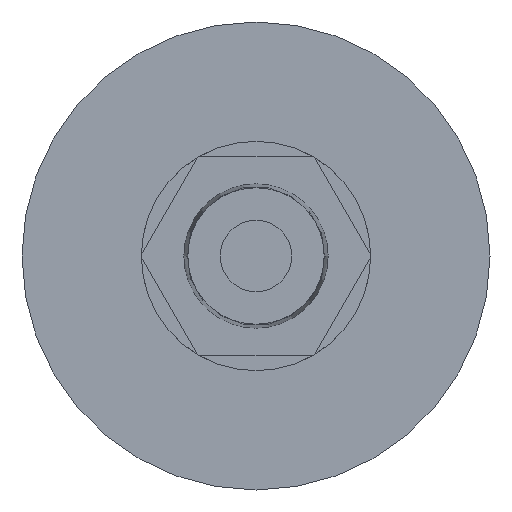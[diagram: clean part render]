
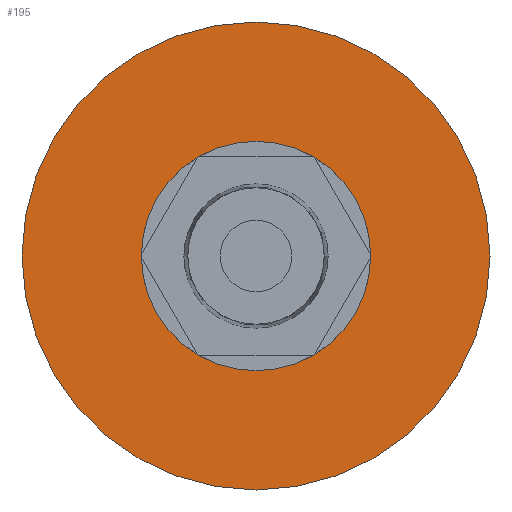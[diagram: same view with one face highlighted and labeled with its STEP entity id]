
A CAD part, left-side view. The second image highlights one B-rep face of the part: STEP entity #195.
In plain terms, the highlighted planar face has unit normal (-1, 0, 0).
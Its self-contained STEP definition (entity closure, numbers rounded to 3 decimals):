
#195=ADVANCED_FACE('',(#397,#398),#399,.T.);
#397=FACE_OUTER_BOUND('',#598,.T.);
#398=FACE_BOUND('',#599,.T.);
#399=PLANE('',#600);
#598=EDGE_LOOP('',(#1080,#1081));
#599=EDGE_LOOP('',(#1082,#1083));
#600=AXIS2_PLACEMENT_3D('',#1084,#1085,#1086);
#1080=ORIENTED_EDGE('',*,*,#1137,.F.);
#1081=ORIENTED_EDGE('',*,*,#1310,.F.);
#1082=ORIENTED_EDGE('',*,*,#1156,.T.);
#1083=ORIENTED_EDGE('',*,*,#1308,.T.);
#1084=CARTESIAN_POINT('',(21.7,16.575,0.0));
#1085=DIRECTION('',(-1.0,0.0,0.0));
#1086=DIRECTION('',(0.0,0.0,1.0));
#1137=EDGE_CURVE('',#1339,#1342,#1343,.T.);
#1156=EDGE_CURVE('',#1349,#1377,#1379,.T.);
#1308=EDGE_CURVE('',#1377,#1349,#1590,.T.);
#1310=EDGE_CURVE('',#1342,#1339,#1592,.T.);
#1339=VERTEX_POINT('',#1692);
#1342=VERTEX_POINT('',#1696);
#1343=CIRCLE('',#1697,22.25);
#1349=VERTEX_POINT('',#1704);
#1377=VERTEX_POINT('',#1739);
#1379=CIRCLE('',#1742,10.9);
#1590=CIRCLE('',#2065,10.9);
#1592=CIRCLE('',#2067,22.25);
#1692=CARTESIAN_POINT('',(21.7,22.25,0.0));
#1696=CARTESIAN_POINT('',(21.7,-22.25,0.));
#1697=AXIS2_PLACEMENT_3D('',#2086,#2087,#2088);
#1704=CARTESIAN_POINT('',(21.7,10.9,0.0));
#1739=CARTESIAN_POINT('',(21.7,-10.9,0.));
#1742=AXIS2_PLACEMENT_3D('',#2122,#2123,#2124);
#2065=AXIS2_PLACEMENT_3D('',#2322,#2323,#2324);
#2067=AXIS2_PLACEMENT_3D('',#2325,#2326,#2327);
#2086=CARTESIAN_POINT('',(21.7,0.0,0.0));
#2087=DIRECTION('',(1.0,0.0,0.0));
#2088=DIRECTION('',(0.0,1.0,0.0));
#2122=CARTESIAN_POINT('',(21.7,0.0,0.0));
#2123=DIRECTION('',(1.0,0.0,0.0));
#2124=DIRECTION('',(0.0,1.0,0.0));
#2322=CARTESIAN_POINT('',(21.7,0.0,0.0));
#2323=DIRECTION('',(1.0,0.0,0.0));
#2324=DIRECTION('',(0.0,1.0,0.0));
#2325=CARTESIAN_POINT('',(21.7,0.0,0.0));
#2326=DIRECTION('',(1.0,0.0,0.0));
#2327=DIRECTION('',(0.0,1.0,0.0));
